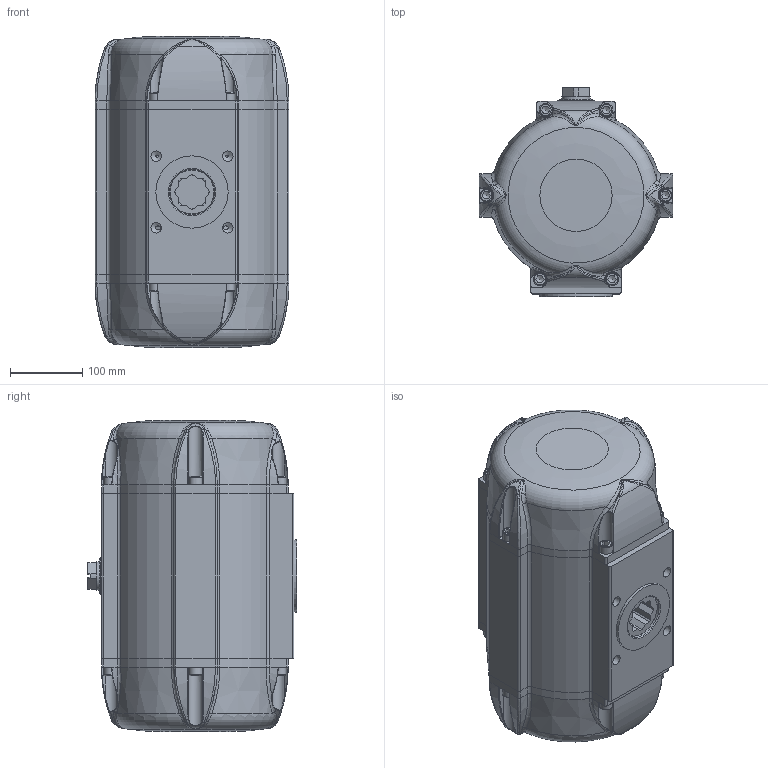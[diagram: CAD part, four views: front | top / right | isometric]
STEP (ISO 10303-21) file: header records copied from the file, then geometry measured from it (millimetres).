
FILE_DESCRIPTION((''),'2;1');
FILE_NAME('C:\Dokumente und Einstellungen\kir\Desktop\STEP IGES\SAF\SAF 40 BR03.stp','2006-12-19T11:49:54',('kir'),(''),'Autodesk Inventor 10','Autodesk Inventor 10','');
FILE_SCHEMA(('AUTOMOTIVE_DESIGN { 1 0 10303 214 1 1 1 1 }'));
Length unit declared in the file: millimetre
Products named in the file (1): ENG-039908
Bounding box: 268 x 289.85 x 430 mm (x, y, z)
Volume: 6743795.9 mm3; surface area: 840020.2 mm2
Topology: 33 solids, 33 shells, 1353 faces, 3403 edges, 2116 vertices
Faces by surface type: bspline 494, cylinder 337, plane 322, torus 134, cone 66
Full cylindrical faces by diameter (mm): 2.5 x2, 10.376 x6, 12 x12, 13 x6, 18 x12, 35 x2, 36 x1, 37 x2, 39.8 x3, 40 x1, 40.1 x1, 45 x1, 48.5 x1, 50 x2, 57 x3, 60 x1, 61.8 x3, 100 x1, 216 x1, 228.841 x1, 229.771 x1
Entity records: 116112 total; most frequent: CARTESIAN_POINT 89034, ORIENTED_EDGE 6122, DIRECTION 4528, EDGE_CURVE 3061, VERTEX_POINT 1987, AXIS2_PLACEMENT_3D 1908, EDGE_LOOP 1642, FACE_OUTER_BOUND 1332
